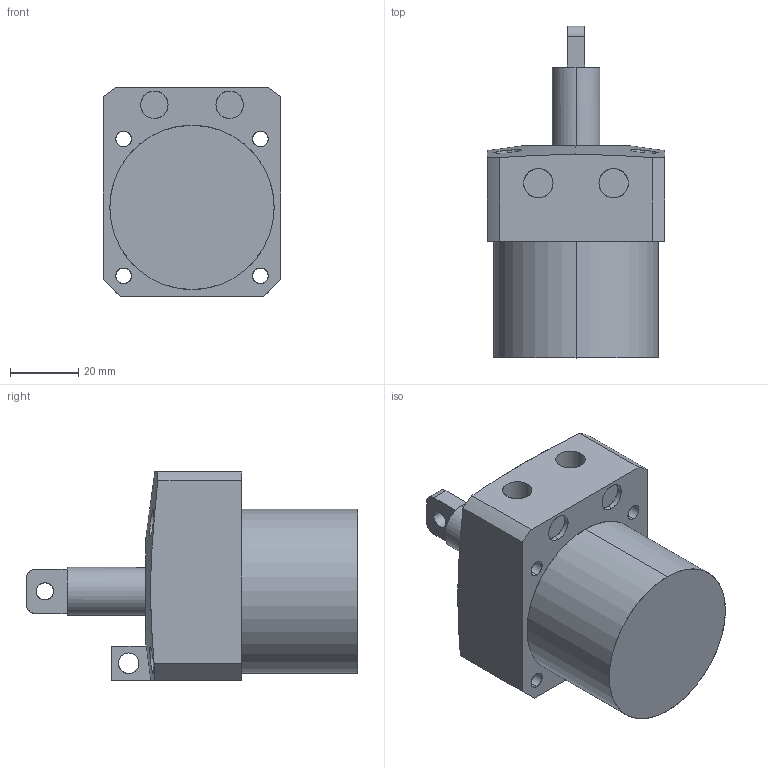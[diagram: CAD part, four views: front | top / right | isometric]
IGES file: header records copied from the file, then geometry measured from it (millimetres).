
Start section: SolidWorks IGES file using analytic representation for surfaces
Global section: file name: E:\karthik\pneu toogle\48\0412-0481.IGS; native system: SolidWorks 2010; preprocessor: SolidWorks 2010; author: karthik; date: 130916.173906; units: millimetre
Bounding box: 52 x 97 x 61 mm (x, y, z)
Surface area: 22055.4 mm2 (no closed solid volume)
Topology: 0 solids, 0 shells, 77 faces, 1606 edges, 1606 vertices
Faces by surface type: revolution 46, bspline 31
